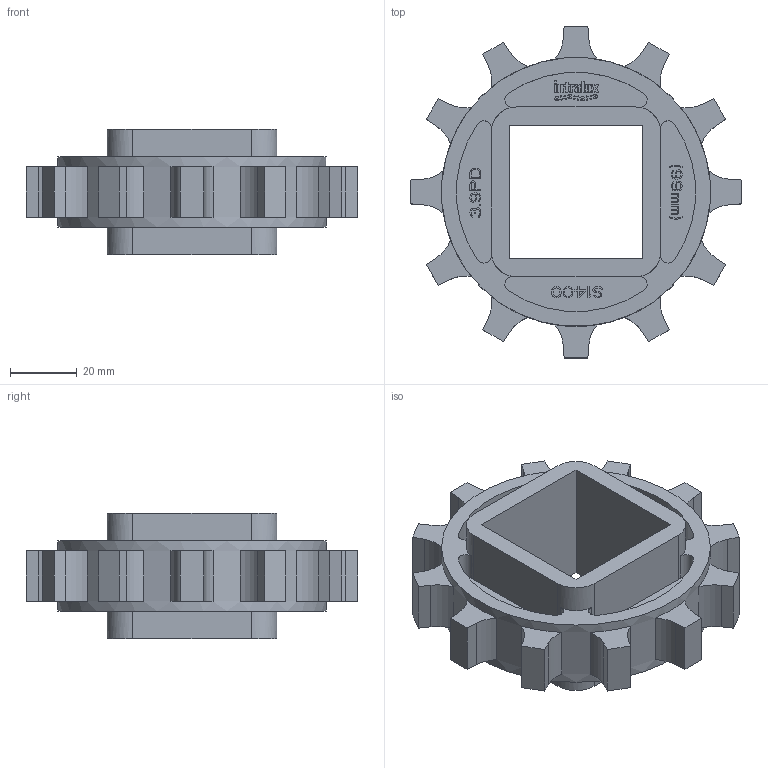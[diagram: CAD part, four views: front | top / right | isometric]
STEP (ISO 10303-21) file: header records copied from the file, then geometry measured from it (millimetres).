
FILE_DESCRIPTION((''),'2;1');
FILE_NAME('S1400_SPROCKET_39X15_40_SQ','2008-12-12T',('jmumphre'),(''),'PRO/ENGINEER BY PARAMETRIC TECHNOLOGY CORPORATION, 2008150','PRO/ENGINEER BY PARAMETRIC TECHNOLOGY CORPORATION, 2008150','');
FILE_SCHEMA(('CONFIG_CONTROL_DESIGN'));
Length unit declared in the file: inch
Products named in the file (1): S1400_SPROCKET_39X15_40_SQ
Bounding box: 99.3 x 99.3 x 37.59 mm (x, y, z)
Volume: 81530.3 mm3; surface area: 32306.8 mm2
Topology: 1 solids, 1 shells, 943 faces, 2661 edges, 1774 vertices
Faces by surface type: plane 796, cylinder 147
Entity records: 30213 total; most frequent: CARTESIAN_POINT 5378, ORIENTED_EDGE 5322, DIRECTION 4881, EDGE_CURVE 2661, VECTOR 2327, LINE 2327, VERTEX_POINT 1774, AXIS2_PLACEMENT_3D 1277
